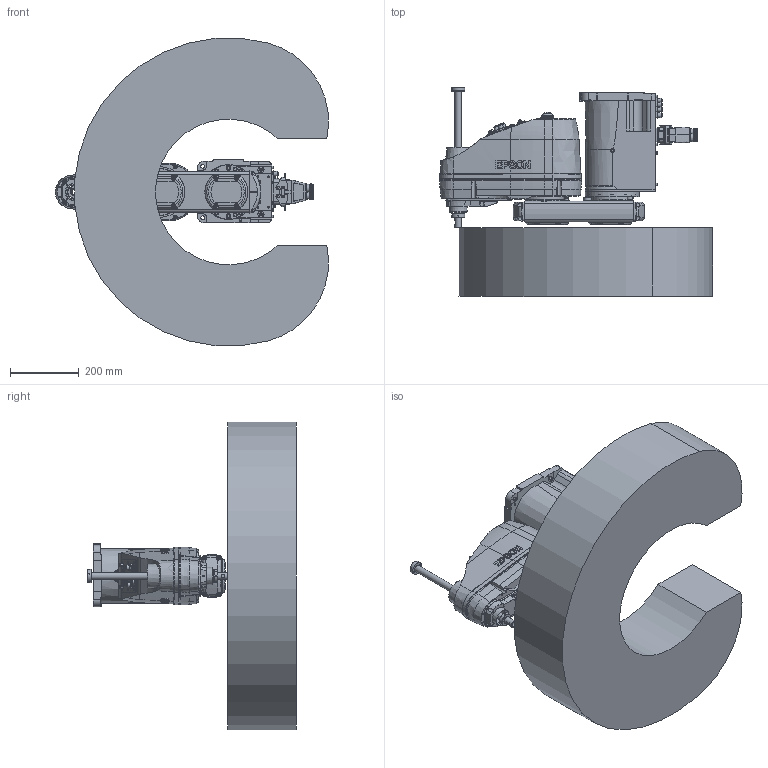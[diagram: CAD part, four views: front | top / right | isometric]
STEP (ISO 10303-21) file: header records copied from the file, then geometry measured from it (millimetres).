
FILE_DESCRIPTION( ( 'STEP AP214' ), '1' );
FILE_NAME( 'C:/Users/9607552/Desktop/GX8-B452SR_straight.stp', '2023-07-07T01:44:03', ( '' ), ( '' ), ' ', 'PARTsolutions', ' ' );
FILE_SCHEMA( ( 'AUTOMOTIVE_DESIGN { 1 0 10303 214 1 1 1 1 }' ) );
Length unit declared in the file: millimetre
Products named in the file (9): GX8-B452SRS-W; _B452SR_BASE; _B452SR; _B452SR_1; _B452SR_2; _B452S_J2; _B452SZA; _Straight-B; _GX8-14-B_WS
Assembly tree (10 placements, depth 2):
  GX8-B452SRS-W
    _B452SR_BASE
    _B452SR
    _B452SR_1  x2
    _B452SR_2  x2
    _B452S_J2
    _B452SZA
    _Straight-B
    _GX8-14-B_WS
Bounding box: 797.24 x 610 x 896.58 mm (x, y, z)
Volume: 97893409.5 mm3; surface area: 2545792.2 mm2
Topology: 10 solids, 10 shells, 2892 faces, 7041 edges, 4586 vertices
Faces by surface type: plane 1438, cylinder 924, cone 365, torus 122, bspline 37, sphere 6
Full cylindrical faces by diameter (mm): 1 x48, 1.18 x55, 2.261 x4, 2.459 x12, 3 x32, 3.242 x18, 3.3 x5, 3.9 x4, 4 x4, 4.2 x8, 4.5 x4, 4.8 x4, 5.34 x4, 5.5 x17, 6 x1, 6.2 x4, 6.647 x4, 6.8 x2, 7 x48, 8 x5, 8.5 x6, 9 x24, 10 x18, 11 x4, 11.2 x7, 11.5 x1, 12 x5, 12.25 x1, 13 x3, 13.2 x12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
Entity records: 103170 total; most frequent: CARTESIAN_POINT 19684, DIRECTION 12695, ORIENTED_EDGE 11734, EDGE_CURVE 5867, AXIS2_PLACEMENT_3D 4911, VERTEX_POINT 4221, EDGE_LOOP 3827, FACE_OUTER_BOUND 3185
